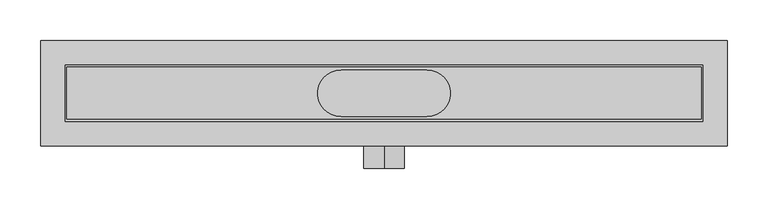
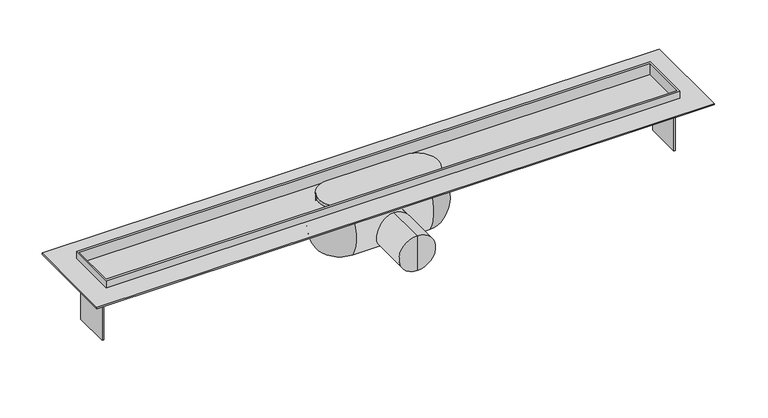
"""IFC4 building model written with IfcOpenShell, lengths in millimetres: sanitary terminal geometry, PF_UN_ShowerDrain C (INT)_ACO : surrounding flange with horizontal connection."""

from ifc_helpers import new_model, si_unit, point, frame, origin, origin_with_axes, place, context, project, spatial, polyline, circle_curve, ellipse_curve, trimmed, outline, extrude, faceted_brep, source, transform, mapped, element, save
from ifc_brep_helpers import plane_surface, cylinder_surface, revolved_surface, advanced_brep


def sanitary_terminal_b0e54eb0(model_context):
    return source(origin(), model_context, "Body", "SolidModel", [
        advanced_brep(
        [(-52.8420194, -28.757915, 0.0), (-52.8420194, 28.757915, 0.0), (-52.8420194, 28.757915, -11.7509027), (-52.8420194, -28.757915, -11.7509027), (-52.8420194, 20.3622022, -75.4877048), (-52.8420194, -20.3622022, -75.4877048), (-52.8420194, -30.8518848, -71.7143523), (-52.8420194, 30.8518848, -71.7143523), (52.8420194, -28.757915, 0.0), (52.8420194, -28.757915, -11.7509027), (52.8420194, -30.8518848, -71.7143523), (52.8420194, -20.3622022, -75.4877048), (52.8420194, 20.3622022, -75.4877048), (52.8420194, 30.8518848, -71.7143523), (52.8420194, 28.757915, -11.7509027), (52.8420194, 28.757915, 0.0)],
        [
            (0, 1, circle_curve(frame((-52.8420194, 0.0, 0.0), z_axis=(0.0, 0.0, -1.0), x_axis=(0.0, 1.0, 0.0)), 28.757915)),
            (1, 2),
            (2, 3, circle_curve(frame((-52.8420194, 0.0, -11.7509027), z_axis=(0.0, 0.0, 1.0), x_axis=(0.0, 1.0, 0.0)), 28.757915)),
            (3, 0),
            (4, 5, circle_curve(frame((-52.8420194, 0.0, -75.4877048), z_axis=(0.0, 0.0, 1.0), x_axis=(0.0, 1.0, 0.0)), 20.3622022)),
            (5, 6, circle_curve(frame((-52.8420194, -20.3622022, -59.0206997), z_axis=(-1.0, 0.0, 0.0), x_axis=(0.0, 1.0, 0.0)), 16.4670051)),
            (6, 7, circle_curve(frame((-52.8420194, 0.0, -71.7143523), z_axis=(0.0, 0.0, -1.0), x_axis=(0.0, 1.0, 0.0)), 30.8518848)),
            (7, 4, circle_curve(frame((-52.8420194, 20.3622022, -59.0206997), z_axis=(-1.0, 0.0, 0.0), x_axis=(0.0, -1.0, 0.0)), 16.4670051)),
            (2, 7, circle_curve(frame((-52.8420194, -11.2789491, -43.1673071), z_axis=(-1.0, 0.0, 0.0), x_axis=(0.0, -1.0, 0.0)), 50.8914625)),
            (6, 3, circle_curve(frame((-52.8420194, 11.2789491, -43.1673071), z_axis=(-1.0, 0.0, 0.0), x_axis=(0.0, 1.0, 0.0)), 50.8914625)),
            (8, 0),
            (3, 9),
            (9, 8),
            (6, 10),
            (10, 9, circle_curve(frame((52.8420194, 11.2789491, -43.1673071), z_axis=(-1.0, 0.0, 0.0), x_axis=(0.0, 1.0, 0.0)), 50.8914625)),
            (5, 11),
            (11, 10, circle_curve(frame((52.8420194, -20.3622022, -59.0206997), z_axis=(-1.0, 0.0, 0.0), x_axis=(0.0, 1.0, 0.0)), 16.4670051)),
            (4, 12),
            (12, 11, circle_curve(frame((52.8420194, 0.0, -75.4877048), z_axis=(0.0, 0.0, -1.0), x_axis=(0.0, 1.0, 0.0)), 20.3622022)),
            (7, 13),
            (13, 12, circle_curve(frame((52.8420194, 20.3622022, -59.0206997), z_axis=(-1.0, 0.0, 0.0), x_axis=(0.0, -1.0, 0.0)), 16.4670051)),
            (2, 14),
            (14, 13, circle_curve(frame((52.8420194, -11.2789491, -43.1673071), z_axis=(-1.0, 0.0, 0.0), x_axis=(0.0, -1.0, 0.0)), 50.8914625)),
            (1, 15),
            (15, 14),
            (8, 15, circle_curve(frame((52.8420194, 0.0, 0.0), z_axis=(0.0, 0.0, 1.0), x_axis=(0.0, 1.0, 0.0)), 28.757915)),
            (9, 14, circle_curve(frame((52.8420194, 0.0, -11.7509027), z_axis=(0.0, 0.0, 1.0), x_axis=(0.0, 1.0, 0.0)), 28.757915)),
            (10, 13, circle_curve(frame((52.8420194, 0.0, -71.7143523), z_axis=(0.0, 0.0, 1.0), x_axis=(0.0, 1.0, 0.0)), 30.8518848)),
        ],
        [
            cylinder_surface(frame((-52.8420194, 0.0, 20.0), z_axis=(0.0, 0.0, 1.0), x_axis=(0.0, 1.0, 0.0)), 28.757915),
            revolved_surface(trimmed(ellipse_curve(frame((-52.8420194, 20.3622022, -59.0206997), z_axis=(1.0, 0.0, 0.0), x_axis=(0.0, -1.0, 0.0)), 16.4670051, 16.4670051), [point((-52.8420194, 20.3622022, -75.4877048))], [point((-52.8420194, 30.8518848, -71.7143523))], True, "CARTESIAN"), (-52.8420194, 0.0, 20.0), (0.0, 0.0, 1.0)),
            revolved_surface(trimmed(ellipse_curve(frame((-52.8420194, -11.2789491, -43.1673071), z_axis=(1.0, 0.0, 0.0), x_axis=(0.0, -1.0, 0.0)), 50.8914625, 50.8914625), [point((-52.8420194, 30.8518848, -71.7143523))], [point((-52.8420194, 28.757915, -11.7509027))], True, "CARTESIAN"), (-52.8420194, 0.0, 20.0), (0.0, 0.0, 1.0)),
            plane_surface(frame((52.8420194, -28.757915, 0.0), z_axis=(0.0, -1.0, 0.0), x_axis=(-1.0, 0.0, 0.0))),
            cylinder_surface(frame((-52.8420194, 11.2789491, -43.1673071), z_axis=(1.0, 0.0, 0.0), x_axis=(0.0, 1.0, 0.0)), 50.8914625),
            cylinder_surface(frame((-52.8420194, -20.3622022, -59.0206997), z_axis=(1.0, 0.0, 0.0), x_axis=(0.0, 1.0, 0.0)), 16.4670051),
            plane_surface(frame((52.8420194, -20.3622022, -75.4877048), z_axis=(0.0, 0.0, -1.0), x_axis=(-1.0, 0.0, 0.0))),
            cylinder_surface(frame((-52.8420194, 20.3622022, -59.0206997), z_axis=(1.0, 0.0, 0.0), x_axis=(0.0, -1.0, 0.0)), 16.4670051),
            cylinder_surface(frame((-52.8420194, -11.2789491, -43.1673071), z_axis=(1.0, 0.0, 0.0), x_axis=(0.0, -1.0, 0.0)), 50.8914625),
            plane_surface(frame((52.8420194, 28.757915, -11.7509027), z_axis=(0.0, 1.0, 0.0), x_axis=(-1.0, 0.0, 0.0))),
            plane_surface(frame((52.8420194, 28.757915, 0.0), z_axis=(0.0, 0.0, 1.0), x_axis=(-1.0, 0.0, 0.0))),
            cylinder_surface(frame((52.8420194, 0.0, 20.0), z_axis=(0.0, 0.0, 1.0), x_axis=(0.0, 1.0, 0.0)), 28.757915),
            revolved_surface(trimmed(ellipse_curve(frame((52.8420194, -11.2789491, -43.1673071), z_axis=(1.0, 0.0, 0.0), x_axis=(0.0, -1.0, 0.0)), 50.8914625, 50.8914625), [point((52.8420194, 30.8518848, -71.7143523))], [point((52.8420194, 28.757915, -11.7509027))], True, "CARTESIAN"), (52.8420194, 0.0, 20.0), (0.0, 0.0, 1.0)),
            revolved_surface(trimmed(ellipse_curve(frame((52.8420194, 20.3622022, -59.0206997), z_axis=(1.0, 0.0, 0.0), x_axis=(0.0, -1.0, 0.0)), 16.4670051, 16.4670051), [point((52.8420194, 20.3622022, -75.4877048))], [point((52.8420194, 30.8518848, -71.7143523))], True, "CARTESIAN"), (52.8420194, 0.0, 20.0), (0.0, 0.0, 1.0)),
        ],
        [
            (0, [[1, 2, 3, 4]]),
            (1, [[5, 6, 7, 8]]),
            (2, [[-3, 9, -7, 10]]),
            (3, [[11, -4, 12, 13]]),
            (4, [[-12, -10, 14, 15]]),
            (5, [[-14, -6, 16, 17]]),
            (6, [[-16, -5, 18, 19]]),
            (7, [[-18, -8, 20, 21]]),
            (8, [[-20, -9, 22, 23]]),
            (9, [[-22, -2, 24, 25]]),
            (10, [[-11, 26, -24, -1]]),
            (11, [[27, -25, -26, -13]]),
            (12, [[-27, -15, 28, -23]]),
            (13, [[-28, -17, -19, -21]]),
        ],
    ),
        advanced_brep(
        [(0.0, -92.5, -50.4496), (0.0, -92.5, -25.404795), (0.0, -92.5, -75.494405), (0.0, -23.2223331, -75.494405), (0.0, -23.2223331, -25.404795), (0.0, -23.2223331, -50.4496)],
        [
            (0, 1),
            (1, 2, circle_curve(frame((0.0, -92.5, -50.4496), z_axis=(0.0, -1.0, 0.0), x_axis=(0.0, 0.0, 1.0)), 25.044805)),
            (2, 0),
            (2, 1, circle_curve(frame((0.0, -92.5, -50.4496), z_axis=(0.0, -1.0, 0.0), x_axis=(0.0, 0.0, 1.0)), 25.044805)),
            (3, 4, circle_curve(frame((0.0, -23.2223331, -50.4496), z_axis=(0.0, 1.0, 0.0), x_axis=(0.0, 0.0, 1.0)), 25.044805)),
            (4, 5),
            (5, 3),
            (4, 3, circle_curve(frame((0.0, -23.2223331, -50.4496), z_axis=(0.0, 1.0, 0.0), x_axis=(0.0, 0.0, 1.0)), 25.044805)),
            (1, 4),
            (3, 2),
        ],
        [
            plane_surface(frame((0.0, -92.5, -50.4496), z_axis=(0.0, -1.0, 0.0), x_axis=(0.0, 0.0, 1.0))),
            plane_surface(frame((0.0, -23.2223331, -50.4496), z_axis=(0.0, 1.0, 0.0), x_axis=(0.0, 0.0, 1.0))),
            cylinder_surface(frame((0.0, -92.5, -50.4496), z_axis=(0.0, -1.0, 0.0), x_axis=(0.0, 0.0, 1.0)), 25.044805),
        ],
        [
            (0, [[1, 2, 3]]),
            (0, [[-3, 4, -1]]),
            (1, [[5, 6, 7]]),
            (1, [[8, -7, -6]]),
            (2, [[-2, 9, -5, 10]]),
            (2, [[-4, -10, -8, -9]]),
        ],
    ),
        faceted_brep([(392.5, 35.0, 12.0), (-392.5, 35.0, 12.0), (-392.5, -35.0, 12.0), (392.5, -35.0, 12.0), (-390.5, 32.0, 12.0), (390.5, 32.0, 12.0), (390.5, -32.0, 12.0), (-390.5, -32.0, 12.0), (392.5, -35.0, -6.0), (-392.5, -35.0, -6.0), (-392.5, -25.0, -6.0), (-390.5, -25.0, -6.0), (-390.5, 25.0, -6.0), (-392.5, 25.0, -6.0), (-392.5, 35.0, -6.0), (392.5, 35.0, -6.0), (392.5, 25.0, -6.0), (390.5, 25.0, -6.0), (390.5, -25.0, -6.0), (392.5, -25.0, -6.0), (-392.5, 25.0, -80.0), (-392.5, -25.0, -80.0), (392.5, -25.0, -80.0), (392.5, 25.0, -80.0), (390.5, 32.0, -4.0), (-390.5, 32.0, -4.0), (-390.5, -32.0, -4.0), (390.5, -32.0, -4.0), (390.5, -25.0, -80.0), (-390.5, -25.0, -80.0), (-390.5, 25.0, -80.0), (390.5, 25.0, -80.0)], [[[0, 1, 2, 3], [4, 5, 6, 7]], [[8, 9, 10, 11, 12, 13, 14, 15, 16, 17, 18, 19]], [[1, 0, 15, 14]], [[2, 1, 14, 13, 20, 21, 10, 9]], [[3, 2, 9, 8]], [[0, 3, 8, 19, 22, 23, 16, 15]], [[24, 25, 26, 27]], [[25, 24, 5, 4]], [[26, 25, 4, 7]], [[27, 26, 7, 6]], [[24, 27, 6, 5]], [[22, 19, 18, 28]], [[21, 29, 11, 10]], [[20, 13, 12, 30]], [[23, 31, 17, 16]], [[29, 21, 20, 30]], [[11, 29, 30, 12]], [[28, 18, 17, 31]], [[22, 28, 31, 23]]]),
        extrude(outline(polyline([(422.5, 65.0), (422.5, -65.0), (-422.5, -65.0), (-422.5, 65.0), (422.5, 65.0)]), holes=[polyline([(390.5, 32.0), (-390.5, 32.0), (-390.5, -32.0), (390.5, -32.0), (390.5, 32.0)])]), origin_with_axes(), (0.0, 0.0, 1.0), 2.0),
    ])


if __name__ == "__main__":
    model = new_model("IFC4")
    model_context = context("Model", 3, world=origin())
    ifc_project = project(units=[si_unit("LENGTHUNIT", "METRE", prefix="MILLI")], contexts=[model_context])
    site = spatial("IfcSite", under=ifc_project)
    building = spatial("IfcBuilding", under=site)
    placement = place(None, origin())
    sanitary_terminal_shape = sanitary_terminal_b0e54eb0(model_context)
    element("IfcSanitaryTerminal", 1, ObjectType="PF_UN_ShowerDrain C (INT)_ACO : surrounding flange with horizontal connection", at=placement, inside=building, context=model_context, shape_type="MappedRepresentation", body=[
        mapped(sanitary_terminal_shape, transform((0.0, 0.0, 0.0), x_axis=(1.0, 0.0, 0.0), y_axis=(0.0, 1.0, 0.0), z_axis=(0.0, 0.0, 1.0))),
    ])
    save(model, "model.ifc")
